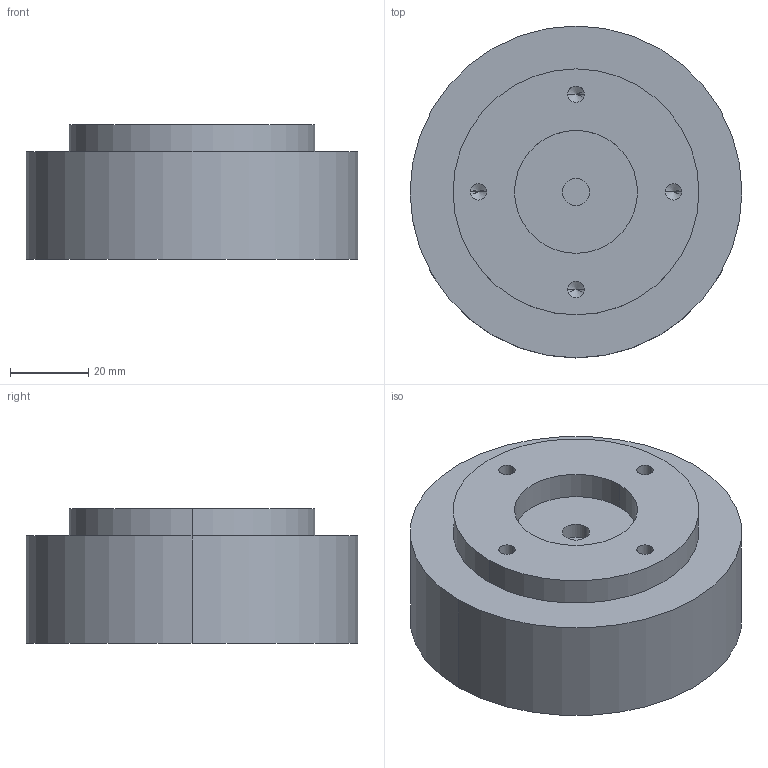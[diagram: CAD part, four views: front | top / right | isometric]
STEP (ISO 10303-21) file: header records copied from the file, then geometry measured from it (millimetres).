
FILE_DESCRIPTION (( 'STEP AP214' ), '1' );
FILE_NAME ('LINK6.STEP', '2020-09-20T14:14:32', ( '' ), ( '' ), 'SwSTEP 2.0', 'SolidWorks 2019', '' );
FILE_SCHEMA (( 'AUTOMOTIVE_DESIGN' ));
Length unit declared in the file: millimetre
Products named in the file (2): LINK6; tool flange
Assembly tree (1 placements, depth 2):
  LINK6
    tool flange
Bounding box: 85 x 85 x 34.5 mm (x, y, z)
Volume: 171793.7 mm3; surface area: 21290.1 mm2
Topology: 1 solids, 1 shells, 29 faces, 64 edges, 36 vertices
Faces by surface type: cylinder 16, cone 8, plane 5
Entity records: 904 total; most frequent: DIRECTION 154, CARTESIAN_POINT 125, ORIENTED_EDGE 112, AXIS2_PLACEMENT_3D 65, EDGE_CURVE 56, VERTEX_POINT 36, EDGE_LOOP 36, CIRCLE 32
